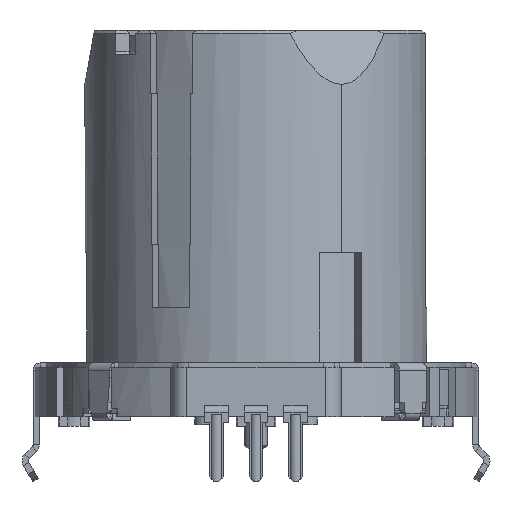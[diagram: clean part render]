
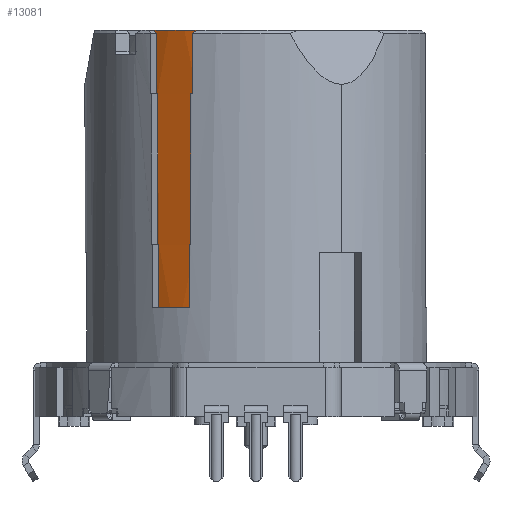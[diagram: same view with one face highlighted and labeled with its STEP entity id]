
A CAD part, front view. The second image highlights one B-rep face of the part: STEP entity #13081.
In plain terms, the highlighted cylindrical face has radius 10.05 mm (diameter 20.1 mm), a partial arc.
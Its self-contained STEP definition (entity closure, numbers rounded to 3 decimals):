
#139 = CARTESIAN_POINT ( 'NONE',  ( 0., 0., -6.875 ) ) ;
#358 = CIRCLE ( 'NONE', #8502, 10.05 ) ;
#583 = ORIENTED_EDGE ( 'NONE', *, *, #32760, .T. ) ;
#794 = CIRCLE ( 'NONE', #14446, 10.05 ) ;
#1263 = CARTESIAN_POINT ( 'NONE',  ( 3.583, -9.39, -24.267 ) ) ;
#2252 = CARTESIAN_POINT ( 'NONE',  ( 6.129, -7.965, -6.875 ) ) ;
#2867 = DIRECTION ( 'NONE',  ( 0., 0., 1. ) ) ;
#3099 = VERTEX_POINT ( 'NONE', #32176 ) ;
#3108 = FACE_OUTER_BOUND ( 'NONE', #22597, .T. ) ;
#3112 = ORIENTED_EDGE ( 'NONE', *, *, #17833, .T. ) ;
#3655 = CARTESIAN_POINT ( 'NONE',  ( 3.834, -9.29, -6.875 ) ) ;
#3799 = CARTESIAN_POINT ( 'NONE',  ( 3.646, -9.365, -6.875 ) ) ;
#4053 = AXIS2_PLACEMENT_3D ( 'NONE', #29051, #14016, #31644 ) ;
#4168 = DIRECTION ( 'NONE',  ( 0., 0., -1. ) ) ;
#4569 = VERTEX_POINT ( 'NONE', #29427 ) ;
#4579 = LINE ( 'NONE', #24380, #10563 ) ;
#4729 = CARTESIAN_POINT ( 'NONE',  ( 3.834, -9.29, -10.875 ) ) ;
#5357 = CARTESIAN_POINT ( 'NONE',  ( 6.208, -7.903, -6.875 ) ) ;
#5470 = ORIENTED_EDGE ( 'NONE', *, *, #21340, .T. ) ;
#5475 = DIRECTION ( 'NONE',  ( 0., 0., 1. ) ) ;
#5662 = VERTEX_POINT ( 'NONE', #28257 ) ;
#5839 = DIRECTION ( 'NONE',  ( 0., 0., -1. ) ) ;
#5931 = CIRCLE ( 'NONE', #28710, 10.05 ) ;
#6115 = DIRECTION ( 'NONE',  ( 0., 0., -1. ) ) ;
#6200 = ORIENTED_EDGE ( 'NONE', *, *, #18774, .T. ) ;
#6466 = CARTESIAN_POINT ( 'NONE',  ( 6.208, -7.903, -20.4 ) ) ;
#6695 = CYLINDRICAL_SURFACE ( 'NONE', #7754, 10.05 ) ;
#6868 = DIRECTION ( 'NONE',  ( 0., 0., 1. ) ) ;
#7191 = ORIENTED_EDGE ( 'NONE', *, *, #12906, .T. ) ;
#7754 = AXIS2_PLACEMENT_3D ( 'NONE', #139, #12707, #30487 ) ;
#7768 = CARTESIAN_POINT ( 'NONE',  ( 0., 0., -10.875 ) ) ;
#8401 = LINE ( 'NONE', #3655, #11931 ) ;
#8502 = AXIS2_PLACEMENT_3D ( 'NONE', #21936, #6868, #24495 ) ;
#8507 = ORIENTED_EDGE ( 'NONE', *, *, #13580, .T. ) ;
#9690 = ORIENTED_EDGE ( 'NONE', *, *, #20690, .T. ) ;
#10306 = DIRECTION ( 'NONE',  ( 0.5, 0.866, 0. ) ) ;
#10334 = DIRECTION ( 'NONE',  ( 0., 0., -1. ) ) ;
#10454 = ORIENTED_EDGE ( 'NONE', *, *, #20659, .F. ) ;
#10530 = DIRECTION ( 'NONE',  ( 0., 0., -1. ) ) ;
#10563 = VECTOR ( 'NONE', #4168, 1000. ) ;
#11396 = CARTESIAN_POINT ( 'NONE',  ( 6.444, -7.712, -24.4 ) ) ;
#11665 = LINE ( 'NONE', #5357, #17569 ) ;
#11708 = CARTESIAN_POINT ( 'NONE',  ( 6.288, -7.84, -20.4 ) ) ;
#11931 = VECTOR ( 'NONE', #6115, 1000. ) ;
#12707 = DIRECTION ( 'NONE',  ( 0., 0., -1. ) ) ;
#12906 = EDGE_CURVE ( 'NONE', #4569, #26092, #18202, .T. ) ;
#13049 = VERTEX_POINT ( 'NONE', #27725 ) ;
#13081 = ADVANCED_FACE ( 'NONE', ( #3108 ), #6695, .T. ) ;
#13217 = ORIENTED_EDGE ( 'NONE', *, *, #27635, .F. ) ;
#13434 = VERTEX_POINT ( 'NONE', #2252 ) ;
#13580 = EDGE_CURVE ( 'NONE', #21252, #13434, #19516, .T. ) ;
#13827 = DIRECTION ( 'NONE',  ( 0., 0., -1. ) ) ;
#14016 = DIRECTION ( 'NONE',  ( 0., 0., 1. ) ) ;
#14446 = AXIS2_PLACEMENT_3D ( 'NONE', #25551, #10530, #28100 ) ;
#14785 = CARTESIAN_POINT ( 'NONE',  ( 3.457, -9.437, -24.4 ) ) ;
#14833 = EDGE_CURVE ( 'NONE', #20663, #4569, #794, .T. ) ;
#15590 =( BOUNDED_CURVE ( )  B_SPLINE_CURVE ( 3, ( #11396, #26422, #31549, #16448 ),
 .UNSPECIFIED., .F., .F. ) 
 B_SPLINE_CURVE_WITH_KNOTS ( ( 4, 4 ),
 ( 1.398, 1.418 ),
 .UNSPECIFIED. ) 
 CURVE ( )  GEOMETRIC_REPRESENTATION_ITEM ( )  RATIONAL_B_SPLINE_CURVE ( ( 1., 1., 1., 1. ) ) 
 REPRESENTATION_ITEM ( '' )  );
#16437 = DIRECTION ( 'NONE',  ( 0., 0., -1. ) ) ;
#16448 = CARTESIAN_POINT ( 'NONE',  ( 6.288, -7.84, -24.2 ) ) ;
#16557 = CARTESIAN_POINT ( 'NONE',  ( 3.52, -9.414, -24.333 ) ) ;
#17351 = CIRCLE ( 'NONE', #4053, 10.05 ) ;
#17481 = ORIENTED_EDGE ( 'NONE', *, *, #23263, .T. ) ;
#17569 = VECTOR ( 'NONE', #2867, 1000. ) ;
#17833 = EDGE_CURVE ( 'NONE', #25029, #29456, #11665, .T. ) ;
#18202 = LINE ( 'NONE', #3799, #30797 ) ;
#18774 = EDGE_CURVE ( 'NONE', #20399, #5662, #5931, .T. ) ;
#18809 = ORIENTED_EDGE ( 'NONE', *, *, #23314, .T. ) ;
#19060 = CARTESIAN_POINT ( 'NONE',  ( 3.646, -9.365, -24.2 ) ) ;
#19471 = ORIENTED_EDGE ( 'NONE', *, *, #14833, .T. ) ;
#19516 = LINE ( 'NONE', #30606, #25407 ) ;
#20342 = ORIENTED_EDGE ( 'NONE', *, *, #22973, .T. ) ;
#20363 = VECTOR ( 'NONE', #10334, 1000. ) ;
#20399 = VERTEX_POINT ( 'NONE', #4729 ) ;
#20659 = EDGE_CURVE ( 'NONE', #13049, #13434, #17351, .T. ) ;
#20663 = VERTEX_POINT ( 'NONE', #24018 ) ;
#20690 = EDGE_CURVE ( 'NONE', #26092, #25191, #23856, .T. ) ;
#20932 = CARTESIAN_POINT ( 'NONE',  ( 0., 0., -20.4 ) ) ;
#21203 = VERTEX_POINT ( 'NONE', #23948 ) ;
#21252 = VERTEX_POINT ( 'NONE', #21512 ) ;
#21340 = EDGE_CURVE ( 'NONE', #5662, #20663, #4579, .T. ) ;
#21512 = CARTESIAN_POINT ( 'NONE',  ( 6.129, -7.965, -10.875 ) ) ;
#21579 = CARTESIAN_POINT ( 'NONE',  ( 3.457, -9.437, -24.4 ) ) ;
#21936 = CARTESIAN_POINT ( 'NONE',  ( 0., 0., -24.4 ) ) ;
#22597 = EDGE_LOOP ( 'NONE', ( #583, #6200, #5470, #19471, #7191, #9690, #20342, #18809, #13217, #17481, #3112, #24900, #8507, #10454 ) ) ;
#22973 = EDGE_CURVE ( 'NONE', #25191, #21203, #358, .T. ) ;
#23263 = EDGE_CURVE ( 'NONE', #23396, #25029, #23632, .T. ) ;
#23314 = EDGE_CURVE ( 'NONE', #21203, #3099, #15590, .T. ) ;
#23396 = VERTEX_POINT ( 'NONE', #11708 ) ;
#23474 = DIRECTION ( 'NONE',  ( 0.5, 0.866, 0. ) ) ;
#23632 = CIRCLE ( 'NONE', #30858, 10.05 ) ;
#23856 =( BOUNDED_CURVE ( )  B_SPLINE_CURVE ( 3, ( #19060, #1263, #16557, #21579 ),
 .UNSPECIFIED., .F., .F. ) 
 B_SPLINE_CURVE_WITH_KNOTS ( ( 4, 4 ),
 ( 4.865, 4.885 ),
 .UNSPECIFIED. ) 
 CURVE ( )  GEOMETRIC_REPRESENTATION_ITEM ( )  RATIONAL_B_SPLINE_CURVE ( ( 1., 1., 1., 1. ) ) 
 REPRESENTATION_ITEM ( '' )  );
#23883 = AXIS2_PLACEMENT_3D ( 'NONE', #28848, #13827, #31443 ) ;
#23948 = CARTESIAN_POINT ( 'NONE',  ( 6.444, -7.712, -24.4 ) ) ;
#24018 = CARTESIAN_POINT ( 'NONE',  ( 3.74, -9.328, -20.4 ) ) ;
#24380 = CARTESIAN_POINT ( 'NONE',  ( 3.74, -9.328, -6.875 ) ) ;
#24495 = DIRECTION ( 'NONE',  ( -0.5, 0.866, 0. ) ) ;
#24900 = ORIENTED_EDGE ( 'NONE', *, *, #29630, .T. ) ;
#25029 = VERTEX_POINT ( 'NONE', #6466 ) ;
#25191 = VERTEX_POINT ( 'NONE', #14785 ) ;
#25334 = DIRECTION ( 'NONE',  ( 0., 0., -1. ) ) ;
#25359 = CARTESIAN_POINT ( 'NONE',  ( 6.288, -7.84, -6.875 ) ) ;
#25407 = VECTOR ( 'NONE', #5475, 1000. ) ;
#25551 = CARTESIAN_POINT ( 'NONE',  ( 0., 0., -20.4 ) ) ;
#26092 = VERTEX_POINT ( 'NONE', #31674 ) ;
#26422 = CARTESIAN_POINT ( 'NONE',  ( 6.392, -7.755, -24.333 ) ) ;
#27635 = EDGE_CURVE ( 'NONE', #23396, #3099, #27846, .T. ) ;
#27725 = CARTESIAN_POINT ( 'NONE',  ( 3.834, -9.29, -6.875 ) ) ;
#27846 = LINE ( 'NONE', #25359, #20363 ) ;
#28095 = CARTESIAN_POINT ( 'NONE',  ( 6.208, -7.903, -10.875 ) ) ;
#28100 = DIRECTION ( 'NONE',  ( 0.5, 0.866, 0. ) ) ;
#28257 = CARTESIAN_POINT ( 'NONE',  ( 3.74, -9.328, -10.875 ) ) ;
#28710 = AXIS2_PLACEMENT_3D ( 'NONE', #7768, #25334, #10306 ) ;
#28848 = CARTESIAN_POINT ( 'NONE',  ( 0., 0., -10.875 ) ) ;
#29051 = CARTESIAN_POINT ( 'NONE',  ( 0., 0., -6.875 ) ) ;
#29427 = CARTESIAN_POINT ( 'NONE',  ( 3.646, -9.365, -20.4 ) ) ;
#29456 = VERTEX_POINT ( 'NONE', #28095 ) ;
#29630 = EDGE_CURVE ( 'NONE', #29456, #21252, #32776, .T. ) ;
#30487 = DIRECTION ( 'NONE',  ( -0.5, -0.866, 0. ) ) ;
#30606 = CARTESIAN_POINT ( 'NONE',  ( 6.129, -7.965, -6.875 ) ) ;
#30797 = VECTOR ( 'NONE', #16437, 1000. ) ;
#30858 = AXIS2_PLACEMENT_3D ( 'NONE', #20932, #5839, #23474 ) ;
#31443 = DIRECTION ( 'NONE',  ( 0.5, 0.866, 0. ) ) ;
#31549 = CARTESIAN_POINT ( 'NONE',  ( 6.34, -7.798, -24.267 ) ) ;
#31644 = DIRECTION ( 'NONE',  ( -0.5, 0.866, 0. ) ) ;
#31674 = CARTESIAN_POINT ( 'NONE',  ( 3.646, -9.365, -24.2 ) ) ;
#32176 = CARTESIAN_POINT ( 'NONE',  ( 6.288, -7.84, -24.2 ) ) ;
#32760 = EDGE_CURVE ( 'NONE', #13049, #20399, #8401, .T. ) ;
#32776 = CIRCLE ( 'NONE', #23883, 10.05 ) ;
